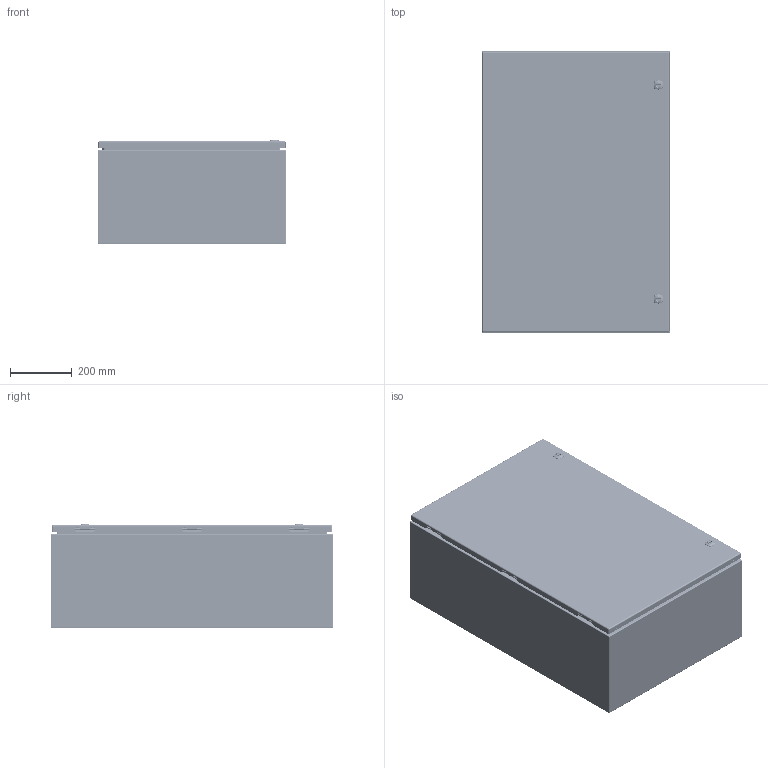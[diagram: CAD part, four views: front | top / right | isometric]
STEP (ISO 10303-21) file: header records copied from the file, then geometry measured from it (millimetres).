
FILE_DESCRIPTION(/* description */ ('5412ES 36" x 24" x 12" Assembly'),/* implementation_level */ '2;1');
FILE_NAME(/* name */ 'C:\Vault_Workspace\Inventor_Dwg\BoxCad\Result\5412ESB362412\e-mail\3D\5412ESB362412.stp',/* time_stamp */ '2022-03-19T01:53:40-04:00',/* author */ ('BoxCad'),/* organization */ (''),/* preprocessor_version */ 'ST-DEVELOPER v18.1',/* originating_system */ 'Autodesk Inventor 2020',/* authorisation */ '');
FILE_SCHEMA (('AUTOMOTIVE_DESIGN { 1 0 10303 214 3 1 1 }'));
Products named in the file (46): 5412ESB362412; 5412ESB362412B; 5412ESB362412B-P; STK-Q-16005; STUD_M6 x 16mm; STK-Q-07610; 881SP3624G; 881SP3624G-P; STK-Q-07310; 5412ESB362412C; 5412ESB362412C-P; 5412ESB362412G; STK-K-09800; STK-K-09800-2; STK-K-09800-3; STK-Q-33014; STK-Q-90398; STK-Q-40095; STK-Q-63410; STK-Q-16055; STK-Q-46020-36; STK-Q-07220-1; STK-Q-07220-2; STK-Q-07220-3; STK-Q-07220-4; STK-Q-07220-A; STK-Q-07220-B; STK-P-03820R; STK-S-00100; STK-A-880SCQ4-SL-1; STK-A-880SCQ4-SL-2; STK-Q-78110; STK-Q-78120; STK-Q-78145; STK-Q-03200; STK-Q-78125; STK-Q-78141; STK-Q-90390; STK-Q-78160; STK-Q-04050-07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
Assembly tree (97 placements, depth 4):
  5412ESB362412
    5412ESB362412B
      5412ESB362412B-P
      STK-Q-16005  x6
      STK-P-03820R
      STUD_M6 x 16mm
    STK-Q-07610  x6
    881SP3624G
      881SP3624G-P
    STK-Q-07310  x6
    5412ESB362412C
      5412ESB362412C-P
      5412ESB362412G
      STK-K-09800
        STK-Q-33014
        STK-Q-90398
        STK-Q-40095  x2
        STK-Q-63410  x2
      STK-K-09800-2
        STK-Q-33014
        STK-Q-90398
        STK-Q-40095  x2
        STK-Q-63410  x2
      STK-K-09800-3
        STK-Q-33014
        STK-Q-90398
        STK-Q-40095  x2
        STK-Q-63410  x2
      STK-Q-16055  x4
      STK-Q-46020-36  x2
      STK-Q-07220-1
        STK-Q-07220-A
        STK-Q-07220-B
      STK-Q-07220-2
        STK-Q-07220-A
        STK-Q-07220-B
      STK-Q-07220-3
        STK-Q-07220-A
        STK-Q-07220-B
      STK-Q-07220-4
        STK-Q-07220-A
        STK-Q-07220-B
      STK-P-03820R
      STK-S-00100
      STK-A-880SCQ4-SL-1
        STK-Q-78110
        STK-Q-78120
        STK-Q-78145
        STK-Q-03200
        STK-Q-78125
        STK-Q-78141
        STK-Q-90390
        STK-Q-78160
      STK-A-880SCQ4-SL-2
        STK-Q-78110
        STK-Q-78120
        STK-Q-78145
        STK-Q-03200
        STK-Q-78125
        STK-Q-78141
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Bounding box: 609.67 x 914.4 x 337.57 mm (x, y, z)
Volume: 4890401.4 mm3; surface area: 5801134.4 mm2
Topology: 78 solids, 78 shells, 12196 faces, 32780 edges, 20842 vertices
Faces by surface type: bspline 4333, plane 3345, cylinder 3220, torus 858, sphere 222, cone 218
Full cylindrical faces by diameter (mm): 0 x1, 0.75 x11, 0.762 x11, 1 x12, 1.1 x12, 3.2 x6, 4.191 x64, 4.5 x4, 4.521 x12, 4.75 x3, 4.85 x24, 4.95 x6, 5 x4, 5.1 x37, 5.156 x4, 5.6 x3, 5.9 x35, 6.015 x64, 6.65 x6, 6.8 x4, 6.85 x24, 7.3 x3, 7.366 x4, 7.9 x10, 8 x14, 8.382 x3, 9.5 x4, 9.6 x2, 9.906 x4, 10 x2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
Entity records: 158262 total; most frequent: CARTESIAN_POINT 64456, ORIENTED_EDGE 21338, DIRECTION 15787, EDGE_CURVE 10669, VERTEX_POINT 6763, AXIS2_PLACEMENT_3D 5830, EDGE_LOOP 4390, LINE 4127
